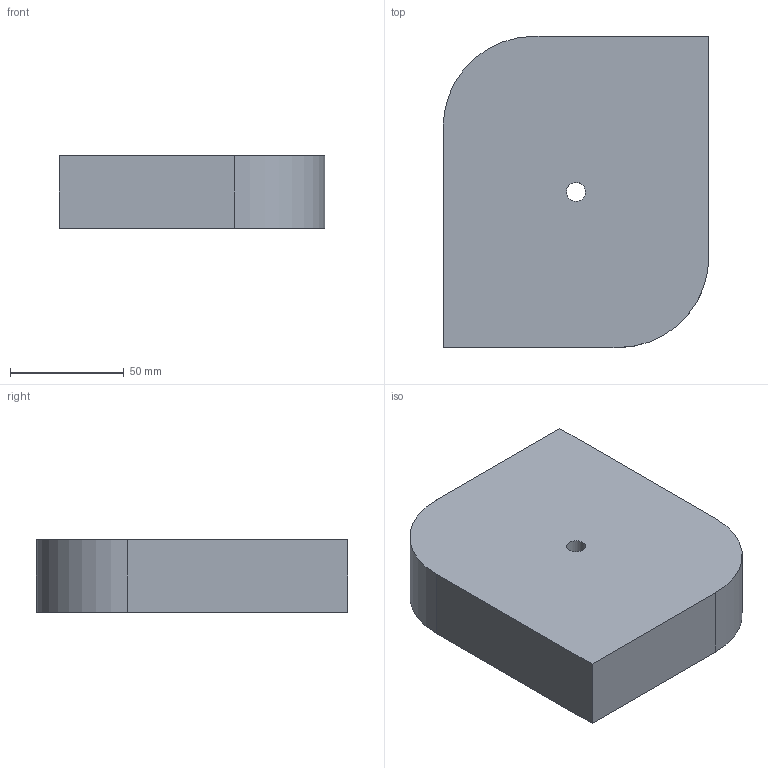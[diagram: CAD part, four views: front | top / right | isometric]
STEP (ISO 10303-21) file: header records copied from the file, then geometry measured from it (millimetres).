
FILE_DESCRIPTION(('CATIA V5 STEP Exchange'),'2;1');
FILE_NAME('C:\_Andres\UNIVERSIDAD\IQS\ASIGNATURAS\DAO\EXF\EXF-15161c\1original\Vallsmadella_Quintanilla_Ej01-plano_v27.stp','2016-03-04T14:59:47+00:00',('none'),('none'),'CATIA Version 5 Release 20 SP 1 (IN-10)','CATIA V5 STEP AP203','none');
FILE_SCHEMA(('CONFIG_CONTROL_DESIGN'));
Length unit declared in the file: millimetre
Products named in the file (1): Vallsmadella_Quintanilla_Ej01-plano_v27
Bounding box: 117 x 137 x 32 mm (x, y, z)
Volume: 489189.5 mm3; surface area: 46573.6 mm2
Topology: 1 solids, 1 shells, 10 faces, 24 edges, 16 vertices
Faces by surface type: plane 6, cylinder 4
Entity records: 333 total; most frequent: CARTESIAN_POINT 51, ORIENTED_EDGE 48, DIRECTION 44, EDGE_CURVE 24, AXIS2_PLACEMENT_3D 19, VECTOR 16, LINE 16, VERTEX_POINT 16
